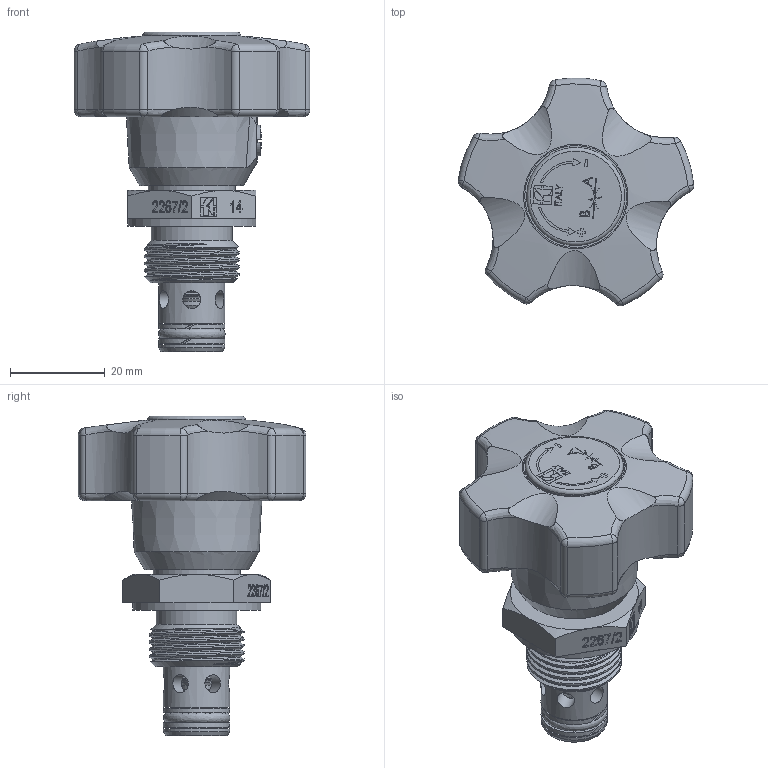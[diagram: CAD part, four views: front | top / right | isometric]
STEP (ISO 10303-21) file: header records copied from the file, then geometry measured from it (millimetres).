
FILE_DESCRIPTION (( 'STEP AP214' ), '1' );
FILE_NAME ('2267-2-14 VOLANTINO ABS.STEP', '2025-10-30T14:40:12', ( '' ), ( '' ), 'SwSTEP 2.0', 'SolidWorks 2025', '' );
FILE_SCHEMA (( 'AUTOMOTIVE_DESIGN' ));
Length unit declared in the file: millimetre
Products named in the file (16): ASSIEME VOLANTINO DI MANOVRA 257-1.005.00-14; BK 2025; VITE A TESTA BOMBATA 2257-2.006.00-14; CAPPUCCIO VOLANTINO 257-2.007.00-18_Tipo18; VOLANTINO DI MANOVRA 257-1.005.00-14; GRANO DI BLOCCAGGIO M4x5_Tipo18; OR 2043; DISCO FASCETTA 257-1.004.00-14; OR 2025; INSERTO ESAGONALE 257-1.005.02-14; SPILLO DI REGOLAZIONE 2267-2.002.00-14; ANELLO ANTI ESTRUSIONE 267-2.022.00-14; CORPO CARTUCCIA FILETTATA 2267-2.101.00-14; 2267-2-14 VOLANTINO ABS; ANELLO DI FERMO 1251-2.003.00-38; INSERTO FILETTATO 257-1.005.03-14
Assembly tree (16 placements, depth 3):
  2267-2-14 VOLANTINO ABS
    CORPO CARTUCCIA FILETTATA 2267-2.101.00-14
    SPILLO DI REGOLAZIONE 2267-2.002.00-14
    ANELLO ANTI ESTRUSIONE 267-2.022.00-14  x2
    GRANO DI BLOCCAGGIO M4x5_Tipo18
    BK 2025
    OR 2025
    OR 2043
    DISCO FASCETTA 257-1.004.00-14
    VITE A TESTA BOMBATA 2257-2.006.00-14
    ANELLO DI FERMO 1251-2.003.00-38
    CAPPUCCIO VOLANTINO 257-2.007.00-18_Tipo18
    ASSIEME VOLANTINO DI MANOVRA 257-1.005.00-14
      INSERTO ESAGONALE 257-1.005.02-14
      INSERTO FILETTATO 257-1.005.03-14
      VOLANTINO DI MANOVRA 257-1.005.00-14
Bounding box: 49.65 x 48 x 67.34 mm (x, y, z)
Volume: 39964.2 mm3; surface area: 20956 mm2
Topology: 15 solids, 15 shells, 1064 faces, 2683 edges, 1702 vertices
Faces by surface type: plane 586, cone 181, cylinder 139, bspline 109, torus 27, sphere 22
Full cylindrical faces by diameter (mm): 2.5 x2, 3 x1, 3.75 x6, 4 x1, 5 x2, 5.5 x1, 5.7 x1, 5.8 x1, 6.1 x1, 6.4 x1, 6.5 x1, 7 x2, 8 x2, 8.5 x2, 9 x2, 9.5 x2, 10.1 x1, 11 x1, 14 x2, 14.5 x1, 14.8 x1, 16 x1, 17 x1, 17.7 x1, 17.8 x1, 18.3 x1, 18.5 x1, 19 x1, 20.7 x1, 21.5 x1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
Entity records: 50028 total; most frequent: CARTESIAN_POINT 26270, ORIENTED_EDGE 4848, DIRECTION 4368, EDGE_CURVE 2424, VERTEX_POINT 1651, AXIS2_PLACEMENT_3D 1479, VECTOR 1410, LINE 1410
